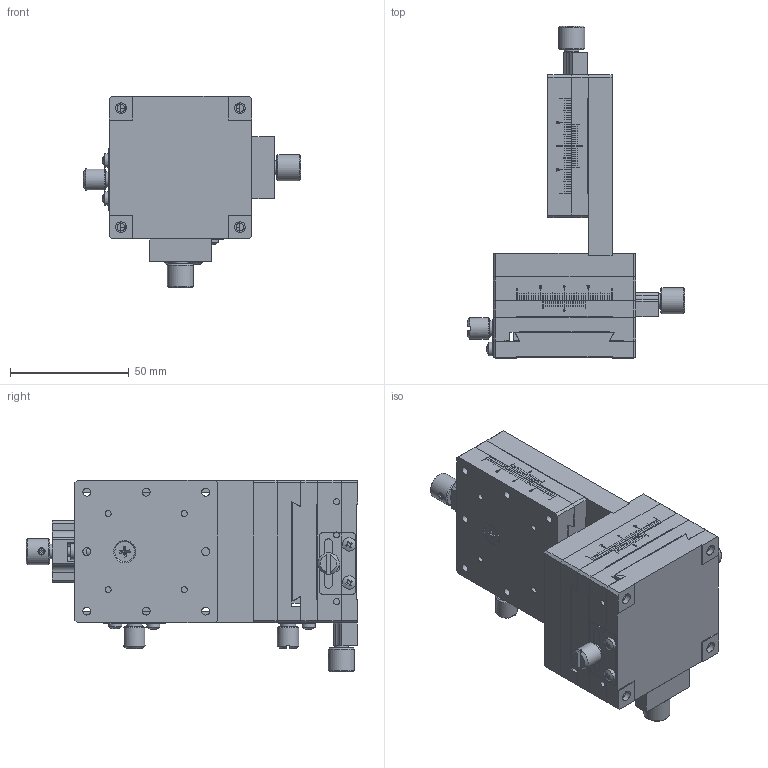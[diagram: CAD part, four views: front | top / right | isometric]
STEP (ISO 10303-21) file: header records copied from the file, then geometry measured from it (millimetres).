
FILE_DESCRIPTION (( 'STEP AP203' ), '1' );
FILE_NAME ('BFD60.STEP', '2024-07-31T06:19:19', ( 'Windows User' ), ( 'P R C' ), 'SwSTEP 2.0', 'SolidWorks 2024', '' );
FILE_SCHEMA (( 'CONFIG_CONTROL_DESIGN' ));
Products named in the file (1): BFD60
Bounding box: 91.3 x 139.5 x 80.5 mm (x, y, z)
Volume: 252424 mm3; surface area: 111076.7 mm2
Topology: 48 solids, 48 shells, 2047 faces, 5370 edges, 3502 vertices
Faces by surface type: plane 1520, cylinder 281, bspline 132, cone 98, torus 10, sphere 6
Full cylindrical faces by diameter (mm): 2.5 x42, 3 x15, 3.2 x6, 3.3 x37, 4 x16, 4.1 x9, 4.5 x22, 5.5 x6, 5.6 x6, 5.8 x6, 6 x3, 6.094 x3, 6.2 x6, 6.5 x3, 6.8 x3, 7 x4, 8 x19, 8.4 x3, 9 x3, 9.9 x3, 11 x6
Entity records: 74705 total; most frequent: CARTESIAN_POINT 27482, ORIENTED_EDGE 9936, DIRECTION 8527, EDGE_CURVE 4968, VERTEX_POINT 3429, LINE 3165, VECTOR 3165, AXIS2_PLACEMENT_3D 2681
